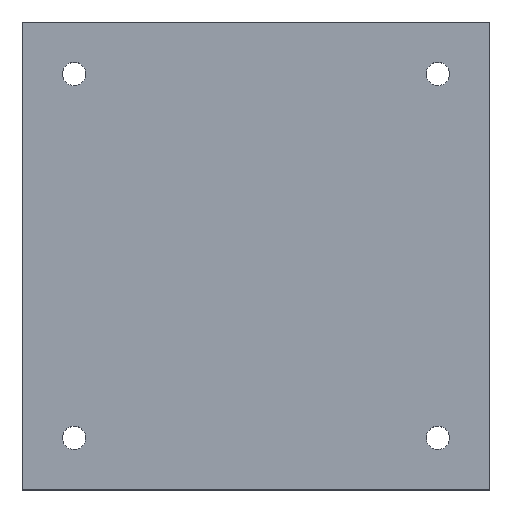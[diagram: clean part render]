
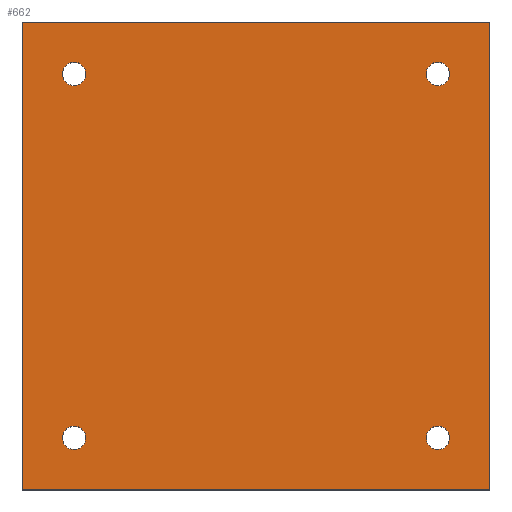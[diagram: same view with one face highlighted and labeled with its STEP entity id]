
A CAD part, top view. The second image highlights one B-rep face of the part: STEP entity #662.
In plain terms, the highlighted planar face has unit normal (0, 0, 1).
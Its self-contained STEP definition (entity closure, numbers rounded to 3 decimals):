
#24 = VERTEX_POINT('',#25);
#25 = CARTESIAN_POINT('',(-180.,-180.,35.));
#32 = PLANE('',#33);
#33 = AXIS2_PLACEMENT_3D('',#34,#35,#36);
#34 = CARTESIAN_POINT('',(-180.,-180.,0.));
#35 = DIRECTION('',(0.,1.,0.));
#36 = DIRECTION('',(1.,0.,0.));
#44 = PLANE('',#45);
#45 = AXIS2_PLACEMENT_3D('',#46,#47,#48);
#46 = CARTESIAN_POINT('',(-180.,180.,0.));
#47 = DIRECTION('',(1.,0.,-0.));
#48 = DIRECTION('',(0.,-1.,0.));
#56 = EDGE_CURVE('',#24,#57,#59,.T.);
#57 = VERTEX_POINT('',#58);
#58 = CARTESIAN_POINT('',(180.,-180.,35.));
#59 = SURFACE_CURVE('',#60,(#64,#71),.PCURVE_S1.);
#60 = LINE('',#61,#62);
#61 = CARTESIAN_POINT('',(-180.,-180.,35.));
#62 = VECTOR('',#63,1.);
#63 = DIRECTION('',(1.,0.,0.));
#64 = PCURVE('',#32,#65);
#65 = DEFINITIONAL_REPRESENTATION('',(#66),#70);
#66 = LINE('',#67,#68);
#67 = CARTESIAN_POINT('',(0.,-35.));
#68 = VECTOR('',#69,1.);
#69 = DIRECTION('',(1.,0.));
#70 = ( GEOMETRIC_REPRESENTATION_CONTEXT(2) 
PARAMETRIC_REPRESENTATION_CONTEXT() REPRESENTATION_CONTEXT('2D SPACE',''
  ) );
#71 = PCURVE('',#72,#77);
#72 = PLANE('',#73);
#73 = AXIS2_PLACEMENT_3D('',#74,#75,#76);
#74 = CARTESIAN_POINT('',(0.,0.,35.));
#75 = DIRECTION('',(0.,0.,1.));
#76 = DIRECTION('',(1.,0.,-0.));
#77 = DEFINITIONAL_REPRESENTATION('',(#78),#82);
#78 = LINE('',#79,#80);
#79 = CARTESIAN_POINT('',(-180.,-180.));
#80 = VECTOR('',#81,1.);
#81 = DIRECTION('',(1.,0.));
#82 = ( GEOMETRIC_REPRESENTATION_CONTEXT(2) 
PARAMETRIC_REPRESENTATION_CONTEXT() REPRESENTATION_CONTEXT('2D SPACE',''
  ) );
#100 = PLANE('',#101);
#101 = AXIS2_PLACEMENT_3D('',#102,#103,#104);
#102 = CARTESIAN_POINT('',(180.,-180.,0.));
#103 = DIRECTION('',(-1.,0.,0.));
#104 = DIRECTION('',(0.,1.,0.));
#142 = EDGE_CURVE('',#57,#143,#145,.T.);
#143 = VERTEX_POINT('',#144);
#144 = CARTESIAN_POINT('',(180.,180.,35.));
#145 = SURFACE_CURVE('',#146,(#150,#157),.PCURVE_S1.);
#146 = LINE('',#147,#148);
#147 = CARTESIAN_POINT('',(180.,-180.,35.));
#148 = VECTOR('',#149,1.);
#149 = DIRECTION('',(0.,1.,0.));
#150 = PCURVE('',#100,#151);
#151 = DEFINITIONAL_REPRESENTATION('',(#152),#156);
#152 = LINE('',#153,#154);
#153 = CARTESIAN_POINT('',(0.,-35.));
#154 = VECTOR('',#155,1.);
#155 = DIRECTION('',(1.,0.));
#156 = ( GEOMETRIC_REPRESENTATION_CONTEXT(2) 
PARAMETRIC_REPRESENTATION_CONTEXT() REPRESENTATION_CONTEXT('2D SPACE',''
  ) );
#157 = PCURVE('',#72,#158);
#158 = DEFINITIONAL_REPRESENTATION('',(#159),#163);
#159 = LINE('',#160,#161);
#160 = CARTESIAN_POINT('',(180.,-180.));
#161 = VECTOR('',#162,1.);
#162 = DIRECTION('',(0.,1.));
#163 = ( GEOMETRIC_REPRESENTATION_CONTEXT(2) 
PARAMETRIC_REPRESENTATION_CONTEXT() REPRESENTATION_CONTEXT('2D SPACE',''
  ) );
#181 = PLANE('',#182);
#182 = AXIS2_PLACEMENT_3D('',#183,#184,#185);
#183 = CARTESIAN_POINT('',(180.,180.,0.));
#184 = DIRECTION('',(0.,-1.,0.));
#185 = DIRECTION('',(-1.,0.,0.));
#218 = EDGE_CURVE('',#143,#219,#221,.T.);
#219 = VERTEX_POINT('',#220);
#220 = CARTESIAN_POINT('',(-180.,180.,35.));
#221 = SURFACE_CURVE('',#222,(#226,#233),.PCURVE_S1.);
#222 = LINE('',#223,#224);
#223 = CARTESIAN_POINT('',(180.,180.,35.));
#224 = VECTOR('',#225,1.);
#225 = DIRECTION('',(-1.,0.,0.));
#226 = PCURVE('',#181,#227);
#227 = DEFINITIONAL_REPRESENTATION('',(#228),#232);
#228 = LINE('',#229,#230);
#229 = CARTESIAN_POINT('',(0.,-35.));
#230 = VECTOR('',#231,1.);
#231 = DIRECTION('',(1.,0.));
#232 = ( GEOMETRIC_REPRESENTATION_CONTEXT(2) 
PARAMETRIC_REPRESENTATION_CONTEXT() REPRESENTATION_CONTEXT('2D SPACE',''
  ) );
#233 = PCURVE('',#72,#234);
#234 = DEFINITIONAL_REPRESENTATION('',(#235),#239);
#235 = LINE('',#236,#237);
#236 = CARTESIAN_POINT('',(180.,180.));
#237 = VECTOR('',#238,1.);
#238 = DIRECTION('',(-1.,0.));
#239 = ( GEOMETRIC_REPRESENTATION_CONTEXT(2) 
PARAMETRIC_REPRESENTATION_CONTEXT() REPRESENTATION_CONTEXT('2D SPACE',''
  ) );
#289 = EDGE_CURVE('',#219,#24,#290,.T.);
#290 = SURFACE_CURVE('',#291,(#295,#302),.PCURVE_S1.);
#291 = LINE('',#292,#293);
#292 = CARTESIAN_POINT('',(-180.,180.,35.));
#293 = VECTOR('',#294,1.);
#294 = DIRECTION('',(0.,-1.,0.));
#295 = PCURVE('',#44,#296);
#296 = DEFINITIONAL_REPRESENTATION('',(#297),#301);
#297 = LINE('',#298,#299);
#298 = CARTESIAN_POINT('',(0.,-35.));
#299 = VECTOR('',#300,1.);
#300 = DIRECTION('',(1.,0.));
#301 = ( GEOMETRIC_REPRESENTATION_CONTEXT(2) 
PARAMETRIC_REPRESENTATION_CONTEXT() REPRESENTATION_CONTEXT('2D SPACE',''
  ) );
#302 = PCURVE('',#72,#303);
#303 = DEFINITIONAL_REPRESENTATION('',(#304),#308);
#304 = LINE('',#305,#306);
#305 = CARTESIAN_POINT('',(-180.,180.));
#306 = VECTOR('',#307,1.);
#307 = DIRECTION('',(0.,-1.));
#308 = ( GEOMETRIC_REPRESENTATION_CONTEXT(2) 
PARAMETRIC_REPRESENTATION_CONTEXT() REPRESENTATION_CONTEXT('2D SPACE',''
  ) );
#338 = VERTEX_POINT('',#339);
#339 = CARTESIAN_POINT('',(-131.,-140.,35.));
#346 = CYLINDRICAL_SURFACE('',#347,9.);
#347 = AXIS2_PLACEMENT_3D('',#348,#349,#350);
#348 = CARTESIAN_POINT('',(-140.,-140.,0.));
#349 = DIRECTION('',(-0.,-0.,-1.));
#350 = DIRECTION('',(1.,0.,-0.));
#365 = EDGE_CURVE('',#338,#338,#366,.T.);
#366 = SURFACE_CURVE('',#367,(#372,#379),.PCURVE_S1.);
#367 = CIRCLE('',#368,9.);
#368 = AXIS2_PLACEMENT_3D('',#369,#370,#371);
#369 = CARTESIAN_POINT('',(-140.,-140.,35.));
#370 = DIRECTION('',(0.,0.,1.));
#371 = DIRECTION('',(1.,0.,-0.));
#372 = PCURVE('',#346,#373);
#373 = DEFINITIONAL_REPRESENTATION('',(#374),#378);
#374 = LINE('',#375,#376);
#375 = CARTESIAN_POINT('',(-0.,-35.));
#376 = VECTOR('',#377,1.);
#377 = DIRECTION('',(-1.,0.));
#378 = ( GEOMETRIC_REPRESENTATION_CONTEXT(2) 
PARAMETRIC_REPRESENTATION_CONTEXT() REPRESENTATION_CONTEXT('2D SPACE',''
  ) );
#379 = PCURVE('',#72,#380);
#380 = DEFINITIONAL_REPRESENTATION('',(#381),#385);
#381 = CIRCLE('',#382,9.);
#382 = AXIS2_PLACEMENT_2D('',#383,#384);
#383 = CARTESIAN_POINT('',(-140.,-140.));
#384 = DIRECTION('',(1.,0.));
#385 = ( GEOMETRIC_REPRESENTATION_CONTEXT(2) 
PARAMETRIC_REPRESENTATION_CONTEXT() REPRESENTATION_CONTEXT('2D SPACE',''
  ) );
#416 = VERTEX_POINT('',#417);
#417 = CARTESIAN_POINT('',(-131.,140.,35.));
#424 = CYLINDRICAL_SURFACE('',#425,9.);
#425 = AXIS2_PLACEMENT_3D('',#426,#427,#428);
#426 = CARTESIAN_POINT('',(-140.,140.,0.));
#427 = DIRECTION('',(-0.,-0.,-1.));
#428 = DIRECTION('',(1.,0.,-0.));
#443 = EDGE_CURVE('',#416,#416,#444,.T.);
#444 = SURFACE_CURVE('',#445,(#450,#457),.PCURVE_S1.);
#445 = CIRCLE('',#446,9.);
#446 = AXIS2_PLACEMENT_3D('',#447,#448,#449);
#447 = CARTESIAN_POINT('',(-140.,140.,35.));
#448 = DIRECTION('',(0.,0.,1.));
#449 = DIRECTION('',(1.,0.,-0.));
#450 = PCURVE('',#424,#451);
#451 = DEFINITIONAL_REPRESENTATION('',(#452),#456);
#452 = LINE('',#453,#454);
#453 = CARTESIAN_POINT('',(-0.,-35.));
#454 = VECTOR('',#455,1.);
#455 = DIRECTION('',(-1.,0.));
#456 = ( GEOMETRIC_REPRESENTATION_CONTEXT(2) 
PARAMETRIC_REPRESENTATION_CONTEXT() REPRESENTATION_CONTEXT('2D SPACE',''
  ) );
#457 = PCURVE('',#72,#458);
#458 = DEFINITIONAL_REPRESENTATION('',(#459),#463);
#459 = CIRCLE('',#460,9.);
#460 = AXIS2_PLACEMENT_2D('',#461,#462);
#461 = CARTESIAN_POINT('',(-140.,140.));
#462 = DIRECTION('',(1.,0.));
#463 = ( GEOMETRIC_REPRESENTATION_CONTEXT(2) 
PARAMETRIC_REPRESENTATION_CONTEXT() REPRESENTATION_CONTEXT('2D SPACE',''
  ) );
#494 = VERTEX_POINT('',#495);
#495 = CARTESIAN_POINT('',(149.,-140.,35.));
#502 = CYLINDRICAL_SURFACE('',#503,9.);
#503 = AXIS2_PLACEMENT_3D('',#504,#505,#506);
#504 = CARTESIAN_POINT('',(140.,-140.,0.));
#505 = DIRECTION('',(-0.,-0.,-1.));
#506 = DIRECTION('',(1.,0.,-0.));
#521 = EDGE_CURVE('',#494,#494,#522,.T.);
#522 = SURFACE_CURVE('',#523,(#528,#535),.PCURVE_S1.);
#523 = CIRCLE('',#524,9.);
#524 = AXIS2_PLACEMENT_3D('',#525,#526,#527);
#525 = CARTESIAN_POINT('',(140.,-140.,35.));
#526 = DIRECTION('',(0.,0.,1.));
#527 = DIRECTION('',(1.,0.,-0.));
#528 = PCURVE('',#502,#529);
#529 = DEFINITIONAL_REPRESENTATION('',(#530),#534);
#530 = LINE('',#531,#532);
#531 = CARTESIAN_POINT('',(-0.,-35.));
#532 = VECTOR('',#533,1.);
#533 = DIRECTION('',(-1.,0.));
#534 = ( GEOMETRIC_REPRESENTATION_CONTEXT(2) 
PARAMETRIC_REPRESENTATION_CONTEXT() REPRESENTATION_CONTEXT('2D SPACE',''
  ) );
#535 = PCURVE('',#72,#536);
#536 = DEFINITIONAL_REPRESENTATION('',(#537),#541);
#537 = CIRCLE('',#538,9.);
#538 = AXIS2_PLACEMENT_2D('',#539,#540);
#539 = CARTESIAN_POINT('',(140.,-140.));
#540 = DIRECTION('',(1.,0.));
#541 = ( GEOMETRIC_REPRESENTATION_CONTEXT(2) 
PARAMETRIC_REPRESENTATION_CONTEXT() REPRESENTATION_CONTEXT('2D SPACE',''
  ) );
#572 = VERTEX_POINT('',#573);
#573 = CARTESIAN_POINT('',(149.,140.,35.));
#580 = CYLINDRICAL_SURFACE('',#581,9.);
#581 = AXIS2_PLACEMENT_3D('',#582,#583,#584);
#582 = CARTESIAN_POINT('',(140.,140.,0.));
#583 = DIRECTION('',(-0.,-0.,-1.));
#584 = DIRECTION('',(1.,0.,-0.));
#599 = EDGE_CURVE('',#572,#572,#600,.T.);
#600 = SURFACE_CURVE('',#601,(#606,#613),.PCURVE_S1.);
#601 = CIRCLE('',#602,9.);
#602 = AXIS2_PLACEMENT_3D('',#603,#604,#605);
#603 = CARTESIAN_POINT('',(140.,140.,35.));
#604 = DIRECTION('',(0.,0.,1.));
#605 = DIRECTION('',(1.,0.,-0.));
#606 = PCURVE('',#580,#607);
#607 = DEFINITIONAL_REPRESENTATION('',(#608),#612);
#608 = LINE('',#609,#610);
#609 = CARTESIAN_POINT('',(-0.,-35.));
#610 = VECTOR('',#611,1.);
#611 = DIRECTION('',(-1.,0.));
#612 = ( GEOMETRIC_REPRESENTATION_CONTEXT(2) 
PARAMETRIC_REPRESENTATION_CONTEXT() REPRESENTATION_CONTEXT('2D SPACE',''
  ) );
#613 = PCURVE('',#72,#614);
#614 = DEFINITIONAL_REPRESENTATION('',(#615),#619);
#615 = CIRCLE('',#616,9.);
#616 = AXIS2_PLACEMENT_2D('',#617,#618);
#617 = CARTESIAN_POINT('',(140.,140.));
#618 = DIRECTION('',(1.,0.));
#619 = ( GEOMETRIC_REPRESENTATION_CONTEXT(2) 
PARAMETRIC_REPRESENTATION_CONTEXT() REPRESENTATION_CONTEXT('2D SPACE',''
  ) );
#662 = ADVANCED_FACE('',(#663,#669,#672,#675,#678),#72,.T.);
#663 = FACE_BOUND('',#664,.T.);
#664 = EDGE_LOOP('',(#665,#666,#667,#668));
#665 = ORIENTED_EDGE('',*,*,#56,.T.);
#666 = ORIENTED_EDGE('',*,*,#142,.T.);
#667 = ORIENTED_EDGE('',*,*,#218,.T.);
#668 = ORIENTED_EDGE('',*,*,#289,.T.);
#669 = FACE_BOUND('',#670,.F.);
#670 = EDGE_LOOP('',(#671));
#671 = ORIENTED_EDGE('',*,*,#365,.T.);
#672 = FACE_BOUND('',#673,.F.);
#673 = EDGE_LOOP('',(#674));
#674 = ORIENTED_EDGE('',*,*,#443,.T.);
#675 = FACE_BOUND('',#676,.F.);
#676 = EDGE_LOOP('',(#677));
#677 = ORIENTED_EDGE('',*,*,#521,.T.);
#678 = FACE_BOUND('',#679,.F.);
#679 = EDGE_LOOP('',(#680));
#680 = ORIENTED_EDGE('',*,*,#599,.T.);
